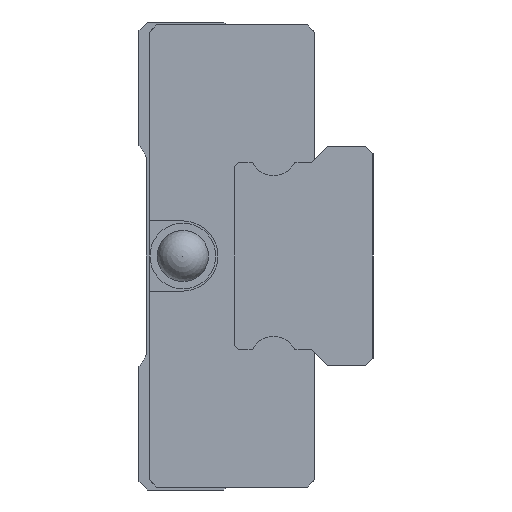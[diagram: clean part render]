
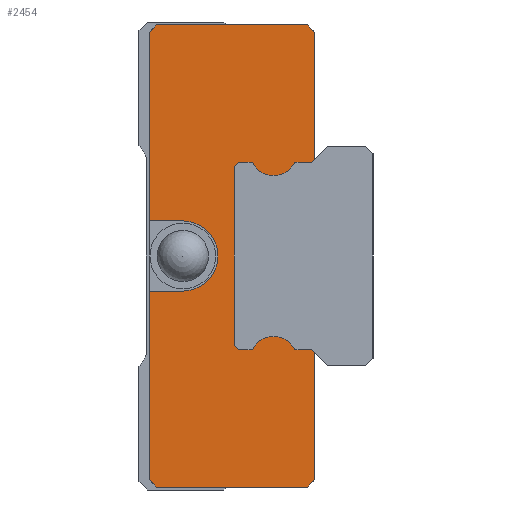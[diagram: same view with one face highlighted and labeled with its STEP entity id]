
A CAD part, left-side view. The second image highlights one B-rep face of the part: STEP entity #2454.
In plain terms, the highlighted planar face has unit normal (-1, 0, 0).
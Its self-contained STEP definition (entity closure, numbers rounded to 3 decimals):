
#118=CIRCLE('',#2667,2.4);
#119=CIRCLE('',#2668,0.15);
#120=CIRCLE('',#2669,1.6);
#121=CIRCLE('',#2670,0.15);
#122=CIRCLE('',#2671,0.15);
#123=CIRCLE('',#2672,1.6);
#124=CIRCLE('',#2673,0.15);
#332=ORIENTED_EDGE('',*,*,#928,.T.);
#333=ORIENTED_EDGE('',*,*,#929,.T.);
#334=ORIENTED_EDGE('',*,*,#930,.T.);
#335=ORIENTED_EDGE('',*,*,#926,.F.);
#336=ORIENTED_EDGE('',*,*,#931,.F.);
#337=ORIENTED_EDGE('',*,*,#932,.F.);
#338=ORIENTED_EDGE('',*,*,#933,.F.);
#339=ORIENTED_EDGE('',*,*,#934,.F.);
#340=ORIENTED_EDGE('',*,*,#935,.F.);
#341=ORIENTED_EDGE('',*,*,#936,.T.);
#342=ORIENTED_EDGE('',*,*,#937,.T.);
#343=ORIENTED_EDGE('',*,*,#938,.F.);
#344=ORIENTED_EDGE('',*,*,#939,.T.);
#345=ORIENTED_EDGE('',*,*,#940,.T.);
#346=ORIENTED_EDGE('',*,*,#941,.T.);
#347=ORIENTED_EDGE('',*,*,#942,.T.);
#348=ORIENTED_EDGE('',*,*,#943,.T.);
#349=ORIENTED_EDGE('',*,*,#944,.T.);
#350=ORIENTED_EDGE('',*,*,#945,.T.);
#351=ORIENTED_EDGE('',*,*,#946,.F.);
#352=ORIENTED_EDGE('',*,*,#947,.T.);
#353=ORIENTED_EDGE('',*,*,#948,.T.);
#354=ORIENTED_EDGE('',*,*,#949,.T.);
#355=ORIENTED_EDGE('',*,*,#950,.F.);
#356=ORIENTED_EDGE('',*,*,#951,.F.);
#357=ORIENTED_EDGE('',*,*,#952,.F.);
#358=ORIENTED_EDGE('',*,*,#953,.F.);
#359=ORIENTED_EDGE('',*,*,#922,.F.);
#922=EDGE_CURVE('',#1240,#1241,#1470,.T.);
#926=EDGE_CURVE('',#1244,#1245,#1474,.T.);
#928=EDGE_CURVE('',#1240,#1246,#1476,.T.);
#929=EDGE_CURVE('',#1246,#1247,#118,.T.);
#930=EDGE_CURVE('',#1247,#1245,#1477,.T.);
#931=EDGE_CURVE('',#1248,#1244,#1478,.T.);
#932=EDGE_CURVE('',#1249,#1248,#1479,.T.);
#933=EDGE_CURVE('',#1250,#1249,#1480,.T.);
#934=EDGE_CURVE('',#1251,#1250,#1481,.T.);
#935=EDGE_CURVE('',#1252,#1251,#1482,.T.);
#936=EDGE_CURVE('',#1252,#1253,#1483,.T.);
#937=EDGE_CURVE('',#1253,#1254,#119,.T.);
#938=EDGE_CURVE('',#1255,#1254,#120,.T.);
#939=EDGE_CURVE('',#1255,#1256,#121,.T.);
#940=EDGE_CURVE('',#1256,#1257,#1484,.T.);
#941=EDGE_CURVE('',#1257,#1258,#1485,.T.);
#942=EDGE_CURVE('',#1258,#1259,#1486,.T.);
#943=EDGE_CURVE('',#1259,#1260,#1487,.T.);
#944=EDGE_CURVE('',#1260,#1261,#1488,.T.);
#945=EDGE_CURVE('',#1261,#1262,#122,.T.);
#946=EDGE_CURVE('',#1263,#1262,#123,.T.);
#947=EDGE_CURVE('',#1263,#1264,#124,.T.);
#948=EDGE_CURVE('',#1264,#1265,#1489,.T.);
#949=EDGE_CURVE('',#1265,#1266,#1490,.T.);
#950=EDGE_CURVE('',#1267,#1266,#1491,.T.);
#951=EDGE_CURVE('',#1268,#1267,#1492,.T.);
#952=EDGE_CURVE('',#1269,#1268,#1493,.T.);
#953=EDGE_CURVE('',#1241,#1269,#1494,.T.);
#1240=VERTEX_POINT('',#3710);
#1241=VERTEX_POINT('',#3712);
#1244=VERTEX_POINT('',#3718);
#1245=VERTEX_POINT('',#3720);
#1246=VERTEX_POINT('',#3724);
#1247=VERTEX_POINT('',#3726);
#1248=VERTEX_POINT('',#3729);
#1249=VERTEX_POINT('',#3731);
#1250=VERTEX_POINT('',#3733);
#1251=VERTEX_POINT('',#3735);
#1252=VERTEX_POINT('',#3737);
#1253=VERTEX_POINT('',#3739);
#1254=VERTEX_POINT('',#3741);
#1255=VERTEX_POINT('',#3743);
#1256=VERTEX_POINT('',#3745);
#1257=VERTEX_POINT('',#3747);
#1258=VERTEX_POINT('',#3749);
#1259=VERTEX_POINT('',#3751);
#1260=VERTEX_POINT('',#3753);
#1261=VERTEX_POINT('',#3755);
#1262=VERTEX_POINT('',#3757);
#1263=VERTEX_POINT('',#3759);
#1264=VERTEX_POINT('',#3761);
#1265=VERTEX_POINT('',#3763);
#1266=VERTEX_POINT('',#3765);
#1267=VERTEX_POINT('',#3767);
#1268=VERTEX_POINT('',#3769);
#1269=VERTEX_POINT('',#3771);
#1470=LINE('',#3711,#1730);
#1474=LINE('',#3719,#1734);
#1476=LINE('',#3723,#1736);
#1477=LINE('',#3727,#1737);
#1478=LINE('',#3728,#1738);
#1479=LINE('',#3730,#1739);
#1480=LINE('',#3732,#1740);
#1481=LINE('',#3734,#1741);
#1482=LINE('',#3736,#1742);
#1483=LINE('',#3738,#1743);
#1484=LINE('',#3746,#1744);
#1485=LINE('',#3748,#1745);
#1486=LINE('',#3750,#1746);
#1487=LINE('',#3752,#1747);
#1488=LINE('',#3754,#1748);
#1489=LINE('',#3762,#1749);
#1490=LINE('',#3764,#1750);
#1491=LINE('',#3766,#1751);
#1492=LINE('',#3768,#1752);
#1493=LINE('',#3770,#1753);
#1494=LINE('',#3772,#1754);
#1730=VECTOR('',#3012,1000.);
#1734=VECTOR('',#3016,1000.);
#1736=VECTOR('',#3020,1000.);
#1737=VECTOR('',#3023,1000.);
#1738=VECTOR('',#3024,1000.);
#1739=VECTOR('',#3025,1000.);
#1740=VECTOR('',#3026,1000.);
#1741=VECTOR('',#3027,1000.);
#1742=VECTOR('',#3028,1000.);
#1743=VECTOR('',#3029,1000.);
#1744=VECTOR('',#3036,1000.);
#1745=VECTOR('',#3037,1000.);
#1746=VECTOR('',#3038,1000.);
#1747=VECTOR('',#3039,1000.);
#1748=VECTOR('',#3040,1000.);
#1749=VECTOR('',#3047,1000.);
#1750=VECTOR('',#3048,1000.);
#1751=VECTOR('',#3049,1000.);
#1752=VECTOR('',#3050,1000.);
#1753=VECTOR('',#3051,1000.);
#1754=VECTOR('',#3052,1000.);
#2003=EDGE_LOOP('',(#332,#333,#334,#335,#336,#337,#338,#339,#340,#341,#342,
#343,#344,#345,#346,#347,#348,#349,#350,#351,#352,#353,#354,#355,#356,#357,
#358,#359));
#2191=FACE_BOUND('',#2003,.T.);
#2342=PLANE('',#2666);
#2454=ADVANCED_FACE('',(#2191),#2342,.F.);
#2666=AXIS2_PLACEMENT_3D('',#3722,#3018,#3019);
#2667=AXIS2_PLACEMENT_3D('',#3725,#3021,#3022);
#2668=AXIS2_PLACEMENT_3D('',#3740,#3030,#3031);
#2669=AXIS2_PLACEMENT_3D('',#3742,#3032,#3033);
#2670=AXIS2_PLACEMENT_3D('',#3744,#3034,#3035);
#2671=AXIS2_PLACEMENT_3D('',#3756,#3041,#3042);
#2672=AXIS2_PLACEMENT_3D('',#3758,#3043,#3044);
#2673=AXIS2_PLACEMENT_3D('',#3760,#3045,#3046);
#3012=DIRECTION('',(0.,0.,1.));
#3016=DIRECTION('',(0.,0.,1.));
#3018=DIRECTION('',(1.,0.,0.));
#3019=DIRECTION('',(0.,0.,-1.));
#3020=DIRECTION('',(0.,-1.,0.));
#3021=DIRECTION('',(1.,0.,0.));
#3022=DIRECTION('',(0.,0.,-1.));
#3023=DIRECTION('',(0.,1.,0.));
#3024=DIRECTION('',(0.,0.707,0.707));
#3025=DIRECTION('',(0.,1.,0.));
#3026=DIRECTION('',(0.,0.707,-0.707));
#3027=DIRECTION('',(0.,0.,-1.));
#3028=DIRECTION('',(0.,-0.707,-0.707));
#3029=DIRECTION('',(0.,1.,0.));
#3030=DIRECTION('',(1.,0.,0.));
#3031=DIRECTION('',(0.,0.,-1.));
#3032=DIRECTION('',(1.,0.,0.));
#3033=DIRECTION('',(0.,0.,-1.));
#3034=DIRECTION('',(1.,0.,0.));
#3035=DIRECTION('',(0.,0.,-1.));
#3036=DIRECTION('',(0.,1.,0.));
#3037=DIRECTION('',(0.,0.707,0.707));
#3038=DIRECTION('',(0.,0.,1.));
#3039=DIRECTION('',(0.,-0.707,0.707));
#3040=DIRECTION('',(0.,-1.,0.));
#3041=DIRECTION('',(1.,0.,0.));
#3042=DIRECTION('',(0.,0.,-1.));
#3043=DIRECTION('',(1.,0.,0.));
#3044=DIRECTION('',(0.,0.,-1.));
#3045=DIRECTION('',(1.,0.,0.));
#3046=DIRECTION('',(0.,0.,-1.));
#3047=DIRECTION('',(0.,-1.,0.));
#3048=DIRECTION('',(0.,-0.707,0.707));
#3049=DIRECTION('',(0.,0.,-1.));
#3050=DIRECTION('',(0.,-0.707,-0.707));
#3051=DIRECTION('',(0.,-1.,0.));
#3052=DIRECTION('',(0.,-0.707,0.707));
#3710=CARTESIAN_POINT('',(-30.35,11.3,2.4));
#3711=CARTESIAN_POINT('',(-30.35,11.3,-15.3));
#3712=CARTESIAN_POINT('',(-30.35,11.3,15.3));
#3718=CARTESIAN_POINT('',(-30.35,11.3,-15.3));
#3719=CARTESIAN_POINT('',(-30.35,11.3,-15.3));
#3720=CARTESIAN_POINT('',(-30.35,11.3,-2.4));
#3722=CARTESIAN_POINT('',(-30.35,0.,0.));
#3723=CARTESIAN_POINT('',(-30.35,12.,2.4));
#3724=CARTESIAN_POINT('',(-30.35,9.,2.4));
#3725=CARTESIAN_POINT('',(-30.35,9.,0.));
#3726=CARTESIAN_POINT('',(-30.35,9.,-2.4));
#3727=CARTESIAN_POINT('',(-30.35,9.,-2.4));
#3728=CARTESIAN_POINT('',(-30.35,10.8,-15.8));
#3729=CARTESIAN_POINT('',(-30.35,10.8,-15.8));
#3730=CARTESIAN_POINT('',(-30.35,0.5,-15.8));
#3731=CARTESIAN_POINT('',(-30.35,0.5,-15.8));
#3732=CARTESIAN_POINT('',(-30.35,0.,-15.3));
#3733=CARTESIAN_POINT('',(-30.35,0.,-15.3));
#3734=CARTESIAN_POINT('',(-30.35,0.,15.3));
#3735=CARTESIAN_POINT('',(-30.35,0.,-6.6));
#3736=CARTESIAN_POINT('',(-30.35,3.3,-3.3));
#3737=CARTESIAN_POINT('',(-30.35,0.2,-6.4));
#3738=CARTESIAN_POINT('',(-30.35,0.2,-6.4));
#3739=CARTESIAN_POINT('',(-30.35,1.27,-6.4));
#3740=CARTESIAN_POINT('',(-30.35,1.27,-6.25));
#3741=CARTESIAN_POINT('',(-30.35,1.401,-6.323));
#3742=CARTESIAN_POINT('',(-30.35,2.8,-7.1));
#3743=CARTESIAN_POINT('',(-30.35,4.199,-6.323));
#3744=CARTESIAN_POINT('',(-30.35,4.33,-6.25));
#3745=CARTESIAN_POINT('',(-30.35,4.33,-6.4));
#3746=CARTESIAN_POINT('',(-30.35,4.33,-6.4));
#3747=CARTESIAN_POINT('',(-30.35,5.2,-6.4));
#3748=CARTESIAN_POINT('',(-30.35,5.2,-6.4));
#3749=CARTESIAN_POINT('',(-30.35,5.5,-6.1));
#3750=CARTESIAN_POINT('',(-30.35,5.5,-6.1));
#3751=CARTESIAN_POINT('',(-30.35,5.5,6.1));
#3752=CARTESIAN_POINT('',(-30.35,5.5,6.1));
#3753=CARTESIAN_POINT('',(-30.35,5.2,6.4));
#3754=CARTESIAN_POINT('',(-30.35,5.2,6.4));
#3755=CARTESIAN_POINT('',(-30.35,4.33,6.4));
#3756=CARTESIAN_POINT('',(-30.35,4.33,6.25));
#3757=CARTESIAN_POINT('',(-30.35,4.199,6.323));
#3758=CARTESIAN_POINT('',(-30.35,2.8,7.1));
#3759=CARTESIAN_POINT('',(-30.35,1.401,6.323));
#3760=CARTESIAN_POINT('',(-30.35,1.27,6.25));
#3761=CARTESIAN_POINT('',(-30.35,1.27,6.4));
#3762=CARTESIAN_POINT('',(-30.35,1.27,6.4));
#3763=CARTESIAN_POINT('',(-30.35,0.2,6.4));
#3764=CARTESIAN_POINT('',(-30.35,0.2,6.4));
#3765=CARTESIAN_POINT('',(-30.35,0.,6.6));
#3766=CARTESIAN_POINT('',(-30.35,0.,15.3));
#3767=CARTESIAN_POINT('',(-30.35,0.,15.3));
#3768=CARTESIAN_POINT('',(-30.35,0.5,15.8));
#3769=CARTESIAN_POINT('',(-30.35,0.5,15.8));
#3770=CARTESIAN_POINT('',(-30.35,10.8,15.8));
#3771=CARTESIAN_POINT('',(-30.35,10.8,15.8));
#3772=CARTESIAN_POINT('',(-30.35,11.3,15.3));
